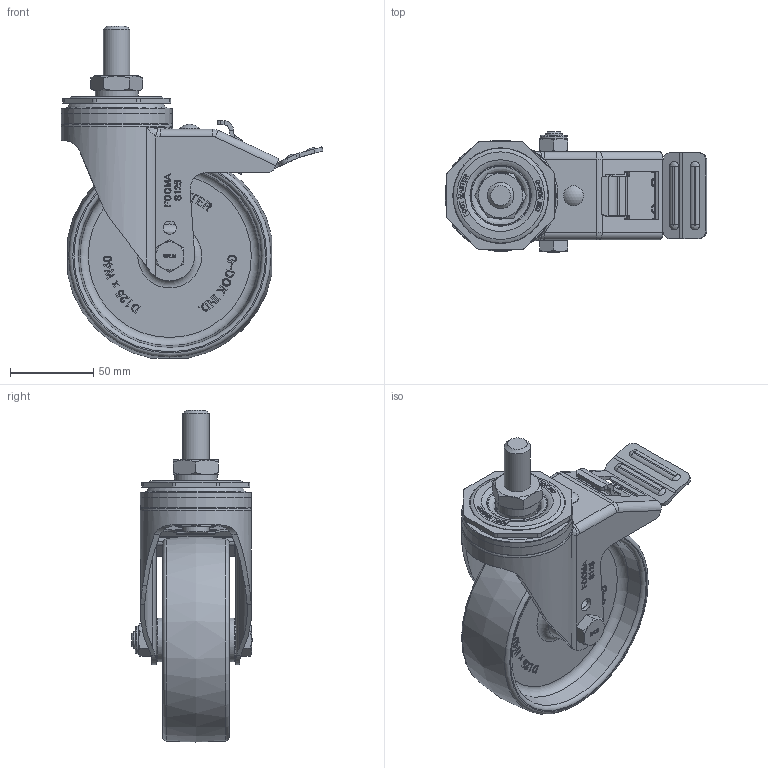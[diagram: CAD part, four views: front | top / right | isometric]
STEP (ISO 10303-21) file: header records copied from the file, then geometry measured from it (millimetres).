
FILE_DESCRIPTION(/* description */ (''),/* implementation_level */ '2;1');
FILE_NAME(/* name */ '\\192.168.10.38\지덕공유\1.기술연구소\2.연구개발 완료\완료_98.스테인레스캐스터 개발건_2023.10.26\제품설계\3D\홈페이지용\NYP\STP\SPLM-125-BSS-NYP.stp',/* time_stamp */ '2025-07-17T18:00:04+09:00',/* author */ ('admin'),/* organization */ ('지덕산업'),/* preprocessor_version */ 'ST-DEVELOPER v18.1',/* originating_system */ 'Autodesk Inventor 2021',/* authorisation */ '');
FILE_SCHEMA (('CONFIG_CONTROL_DESIGN'));
Products named in the file (1): SPLM-125-BSS-NYP
Bounding box: 157.79 x 72.3 x 199.96 mm (x, y, z)
Volume: 345479.3 mm3; surface area: 112640.2 mm2
Topology: 1 solids, 1 shells, 1773 faces, 4733 edges, 3055 vertices
Faces by surface type: plane 911, bspline 506, cylinder 253, cone 66, torus 36, sphere 1
Full cylindrical faces by diameter (mm): 6 x1, 7 x3, 8 x2, 9 x1, 10 x2, 11 x1, 12 x1, 15.875 x1, 16 x2, 16.5 x1, 25.8 x1, 54 x1, 67 x1
Entity records: 56908 total; most frequent: CARTESIAN_POINT 16048, ORIENTED_EDGE 9458, DIRECTION 6781, EDGE_CURVE 4729, VERTEX_POINT 3055, LINE 2863, VECTOR 2863, AXIS2_PLACEMENT_3D 1959
